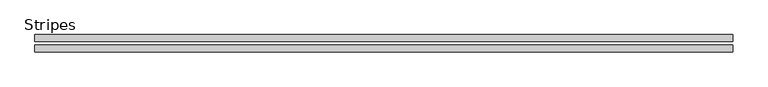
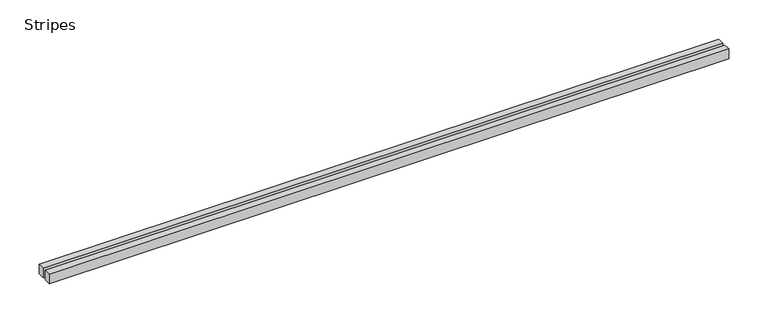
"""IFC4 building model written with IfcOpenShell, lengths in millimetres: sanitary terminal geometry, ZZZ_do not use_PF_ST_grating for showerdrain s_Aco : Stripes."""

from ifc_helpers import new_model, si_unit, frame, origin, place, context, project, spatial, polyline, outline, extrude, source, transform, mapped, element, save


def stripes_9619ddbf(model_context):
    return source(origin(), model_context, "Body", "SweptSolid", [
        extrude(outline(polyline([(500.0, 12.5), (500.0, 2.5), (-500.0, 2.5), (-500.0, 12.5), (500.0, 12.5)])), frame((0.0, 0.0, -15.0), z_axis=(0.0, 0.0, 1.0), x_axis=(1.0, 0.0, 0.0)), (0.0, 0.0, 1.0), 15.0),
        extrude(outline(polyline([(500.0, -2.5), (500.0, -12.5), (-500.0, -12.5), (-500.0, -2.5), (500.0, -2.5)])), frame((0.0, 0.0, -15.0), z_axis=(0.0, 0.0, 1.0), x_axis=(1.0, 0.0, 0.0)), (0.0, 0.0, 1.0), 15.0),
    ])


if __name__ == "__main__":
    model = new_model("IFC4")
    model_context = context("Model", 3, world=origin())
    ifc_project = project(units=[si_unit("LENGTHUNIT", "METRE", prefix="MILLI")], contexts=[model_context])
    site = spatial("IfcSite", under=ifc_project)
    building = spatial("IfcBuilding", under=site)
    placement = place(None, origin())
    stripes_shape = stripes_9619ddbf(model_context)
    element("IfcSanitaryTerminal", 1, ObjectType="ZZZ_do not use_PF_ST_grating for showerdrain s_Aco : Stripes", at=placement, inside=building, context=model_context, shape_type="MappedRepresentation", body=[
        mapped(stripes_shape, transform((0.0, 0.0, 0.0), x_axis=(1.0, 0.0, 0.0), y_axis=(0.0, 1.0, 0.0), z_axis=(0.0, 0.0, 1.0))),
    ])
    save(model, "model.ifc")
